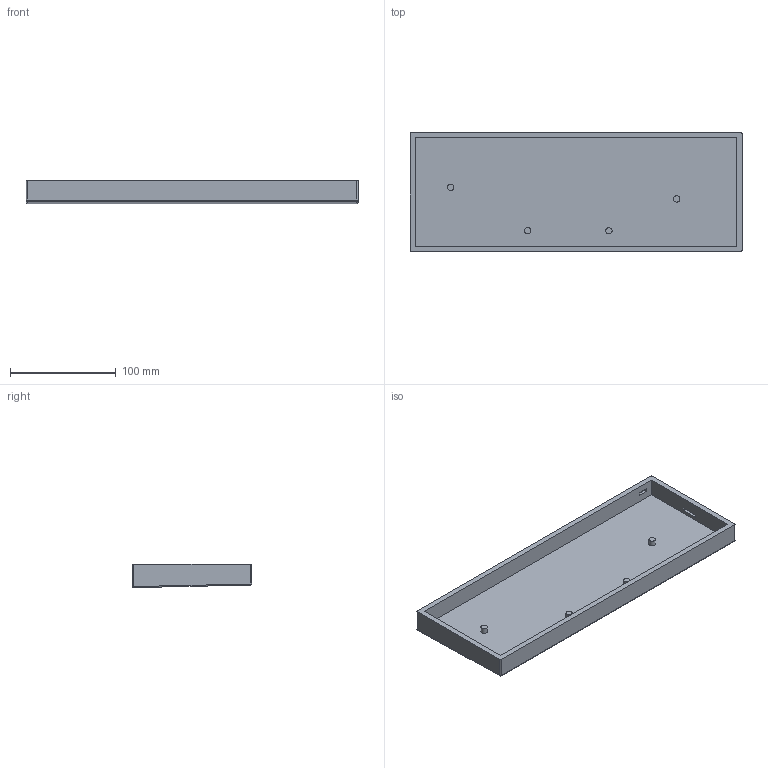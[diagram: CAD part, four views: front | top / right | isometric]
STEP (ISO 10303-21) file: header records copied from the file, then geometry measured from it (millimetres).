
FILE_DESCRIPTION(/* description */ ('STEP AP242 Edition 2','CAx-IF Rec.Pracs.---Representation and Presentation of Product Manufacturing Information (PMI)---4.0---2014-10-13','CAx-IF Rec.Pracs.---3D Tessellated Geometry---0.4---2014-09-14','2;1','CAx-IF Rec.Pracs.---User Defined Attributes---1.5---2016-08-15'),/* implementation_level */ '2;1');
FILE_NAME(/* name */ 'case - Part 1',/* time_stamp */ '2026-11-09T22:12:42Z',/* author */ (''),/* organization */ (''),/* preprocessor_version */ 'ST-DEVELOPER v20',/* originating_system */ 'ONSHAPE BY PTC INC, 1.223',/* authorisation */ ' ');
FILE_SCHEMA (('AP242_MANAGED_MODEL_BASED_3D_ENGINEERING_MIM_LF { 1 0 10303 442 3 1 4 }'));
Length unit declared in the file: metre
Products named in the file (1): Part 1
Bounding box: 314.04 x 112.58 x 21.98 mm (x, y, z)
Volume: 204369.6 mm3; surface area: 102393.8 mm2
Topology: 1 solids, 1 shells, 47 faces, 104 edges, 60 vertices
Faces by surface type: plane 23, cylinder 20, sphere 4
Full cylindrical faces by diameter (mm): 6 x4
Entity records: 1256 total; most frequent: DIRECTION 224, CARTESIAN_POINT 204, ORIENTED_EDGE 192, EDGE_CURVE 96, AXIS2_PLACEMENT_3D 80, LINE 64, VECTOR 64, VERTEX_POINT 60
